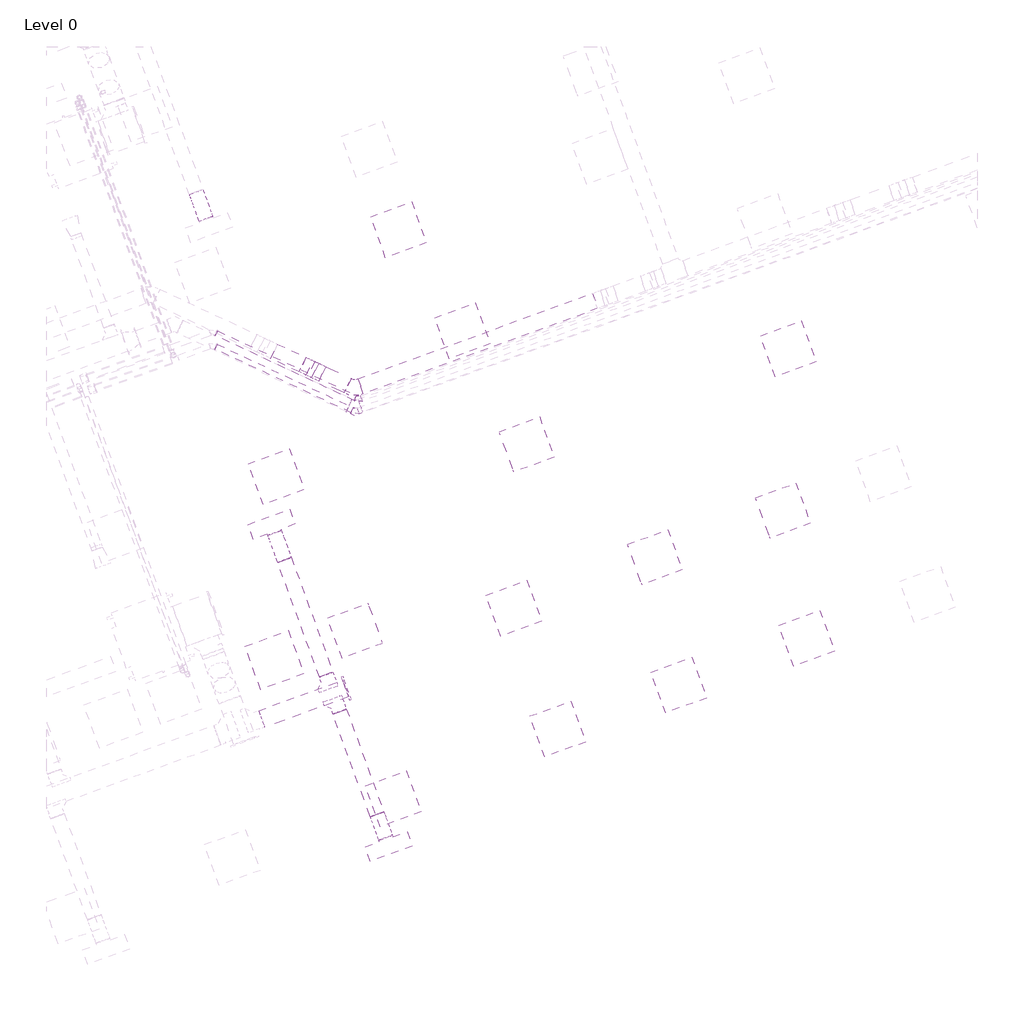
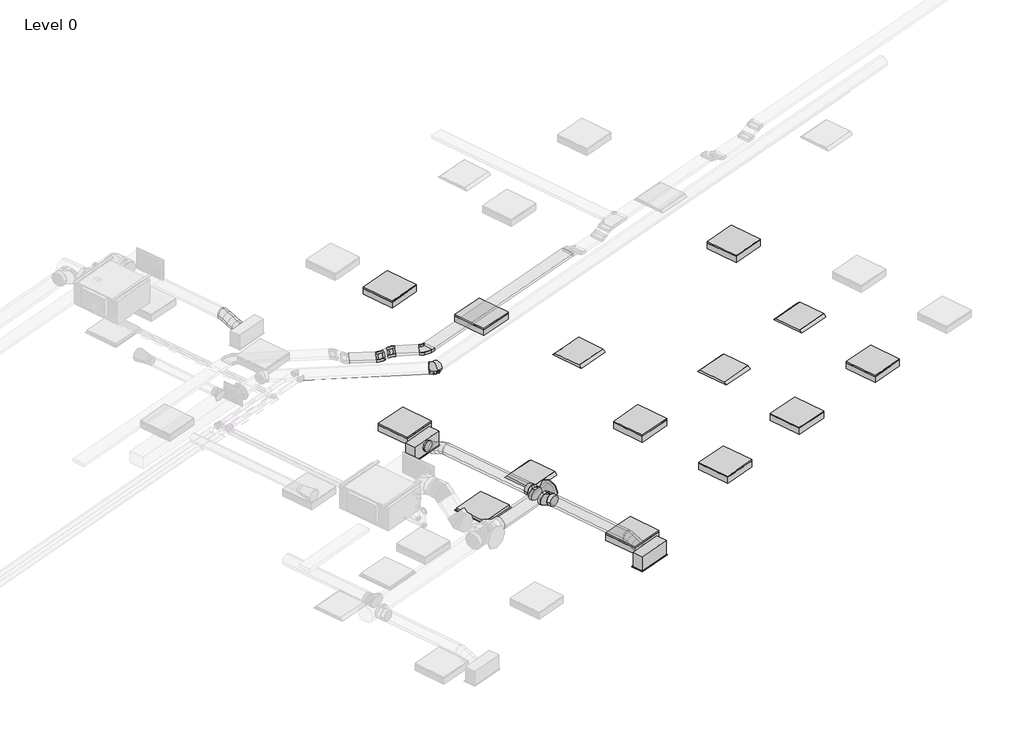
# One storey, part 27 of 34: 13 light fixtures, 6 duct segments, 4 cable carrier segments, 4 duct fittings, 3 air terminals, 3 cable carrier fittings, 2 pipe fittings, 2 pipe segments.
"""IFC4 building model written with IfcOpenShell, lengths in millimetres."""

from ifc_helpers import new_model, si_unit, point, frame, frame_2d, origin, place, context, project, spatial, polyline, circle_curve, ellipse_curve, trimmed, segment, composite_curve, outline, extrude, transform, mapped, element, save
from ifc_brep_helpers import plane_surface, cylinder_surface, advanced_brep
from components import return_grille_rectangular_hosted_standard_7b12617c, supply_diffuser_with_plenum_linear_slot_hosted_8e4f2f20, cable_tray_horizontal_bend_standard_ea848225, cable_tray_vertical_inside_bend_standard_9a66f55b, cable_tray_vertical_outside_bend_standard_4df2047e, dw144_round_blank_end_standard_9aa061e7, dw144_round_segmented_bend_slip_joint_standard_55afcd91, dw144_round_shoe_branch_slip_joint1_standard_2_559552f4, light_fixture_b730b5ca, troffer_light_2x2_parabolic_2_x2_2_lamp_120v_6a063ff3, elbow_threaded_gmi_standard_9261818c

model = new_model("IFC4")

# Units and contexts
model_context = context("Model", 3, world=origin())
ifc_project = project(units=[si_unit("LENGTHUNIT", "METRE", prefix="MILLI")], contexts=[model_context])

# Site, building, storey
site = spatial("IfcSite", under=ifc_project)
building = spatial("IfcBuilding", under=site)
storey = spatial("IfcBuildingStorey", under=building, Name="Level 0", Elevation=0.0)

# Air terminals
placement = place(None, origin())
return_grille_rectangular_hosted_standard_shape = return_grille_rectangular_hosted_standard_7b12617c(model_context)
element("IfcAirTerminal", 1, ObjectType="Return Grille - Rectangular - Hosted : Standard", at=placement, inside=storey, context=model_context, shape_type="MappedRepresentation", body=[
    mapped(return_grille_rectangular_hosted_standard_shape, transform((48062.9940494, 9235.5167351, 2800.0), x_axis=(0.939692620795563, 0.34202014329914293, 0.0), y_axis=(0.34202014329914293, -0.939692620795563, 0.0), z_axis=(0.0, 0.0, -1.0))),
])
supply_diffuser_with_plenum_linear_slot_hosted_shape = supply_diffuser_with_plenum_linear_slot_hosted_8e4f2f20(model_context)
element("IfcAirTerminal", 2, ObjectType="Supply Diffuser with Plenum - Linear Slot - Hosted : 24\" x 8\"-200 In Inlet  4-Slot", at=placement, inside=storey, context=model_context, shape_type="MappedRepresentation", body=[
    mapped(supply_diffuser_with_plenum_linear_slot_hosted_shape, transform((49663.8644548, 6625.652594, 2800.0), x_axis=(-0.9396926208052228, -0.34202014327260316, 0.0), y_axis=(-0.34202014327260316, 0.9396926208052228, 0.0), z_axis=(0.0, 0.0, -1.0))),
])
element("IfcAirTerminal", 3, ObjectType="Supply Diffuser with Plenum - Linear Slot - Hosted : 24\" x 8\"-200 In Inlet  4-Slot", at=placement, inside=storey, context=model_context, shape_type="MappedRepresentation", body=[
    mapped(supply_diffuser_with_plenum_linear_slot_hosted_shape, transform((48022.1677671, 11136.1771739, 2800.0), x_axis=(0.939692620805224, 0.34202014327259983, 0.0), y_axis=(0.34202014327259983, -0.939692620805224, 0.0), z_axis=(0.0, 0.0, -1.0))),
])

# Cable carrier fittings
cable_tray_horizontal_bend_standard_shape = cable_tray_horizontal_bend_standard_ea848225(model_context)
element("IfcCableCarrierFitting", 4, ObjectType="Cable Tray Horizontal Bend : Standard", at=placement, inside=storey, context=model_context, shape_type="MappedRepresentation", body=[
    mapped(cable_tray_horizontal_bend_standard_shape, transform((49178.5883036, 13033.9843438, 3248.9627355), x_axis=(0.9063077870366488, -0.422618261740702, 0.0), y_axis=(0.422618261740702, 0.9063077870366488, 0.0), z_axis=(0.0, 0.0, 1.0))),
])
cable_tray_vertical_inside_bend_standard_shape = cable_tray_vertical_inside_bend_standard_9a66f55b(model_context)
element("IfcCableCarrierFitting", 5, ObjectType="Cable Tray Vertical Inside Bend : Standard", at=placement, inside=storey, context=model_context, shape_type="MappedRepresentation", body=[
    mapped(cable_tray_vertical_inside_bend_standard_shape, transform((48516.9257607, 13342.5226547, 3148.9627355), x_axis=(0.9063077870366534, -0.42261826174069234, 0.0), y_axis=(0.0, 0.0, 1.0000000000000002), z_axis=(-0.42261826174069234, -0.9063077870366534, 0.0))),
])
cable_tray_vertical_outside_bend_standard_shape = cable_tray_vertical_outside_bend_standard_4df2047e(model_context)
element("IfcCableCarrierFitting", 6, ObjectType="Cable Tray Vertical Outside Bend : Standard", at=placement, inside=storey, context=model_context, shape_type="MappedRepresentation", body=[
    mapped(cable_tray_vertical_outside_bend_standard_shape, transform((48673.9028741, 13269.3230245, 3248.9627355), x_axis=(-0.9063077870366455, 0.42261826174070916, 0.0), y_axis=(0.0, 0.0, -1.0), z_axis=(-0.42261826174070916, -0.9063077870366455, 0.0))),
])

# Cable carrier segments
element("IfcCableCarrierSegment", 7, ObjectType="Perforated Cable Tray", at=placement, inside=storey, context=model_context, shape_type="SweptSolid", body=[
    extrude(outline(polyline([(48687.0694296, 13139.053343), (48782.1585385, 13342.9725951), (49136.974176, 13177.519346), (49041.8850671, 12973.600094), (48687.0694296, 13139.053343)])), frame((0.0, 0.0, 3223.9627355), z_axis=(0.0, 0.0, 1.0), x_axis=(1.0, 0.0, 0.0)), (0.0, 0.0, 1.0), 50.0),
])
element("IfcCableCarrierSegment", 8, ObjectType="Perforated Cable Tray", at=placement, inside=storey, context=model_context, shape_type="SweptSolid", body=[
    extrude(outline(polyline([(48010.1156409, 13454.7220789), (48105.2047498, 13658.6413309), (48503.7592052, 13472.7923362), (48408.6700963, 13268.8730841), (48010.1156409, 13454.7220789)])), frame((0.0, 0.0, 3123.9627355), z_axis=(0.0, 0.0, 1.0), x_axis=(1.0, 0.0, 0.0)), (0.0, 0.0, 1.0), 50.0),
])
element("IfcCableCarrierSegment", 9, ObjectType="Perforated Cable Tray", at=placement, inside=storey, context=model_context, shape_type="SweptSolid", body=[
    extrude(outline(polyline([(0.0, -225.0), (0.0, 0.0), (66.0254038, 0.0), (66.0254038, -225.0), (0.0, -225.0)])), frame((48585.1098035, 13186.5978974, 3193.8184513), z_axis=(-0.4531538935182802, 0.21130913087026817, 0.8660254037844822), x_axis=(-0.7848855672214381, 0.3659981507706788, -0.49999999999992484)), (0.0, 0.0, 1.0), 50.0),
])
element("IfcCableCarrierSegment", 10, ObjectType="Perforated Cable Tray", at=placement, inside=storey, context=model_context, shape_type="SweptSolid", body=[
    extrude(outline(polyline([(49309.5085089, 12961.9154021), (49232.5539766, 13173.3462418), (52512.3328011, 14367.0881089), (52589.2873334, 14155.6572692), (49309.5085089, 12961.9154021)])), frame((0.0, 0.0, 3223.9627355), z_axis=(0.0, 0.0, 1.0), x_axis=(1.0, 0.0, 0.0)), (0.0, 0.0, 1.0), 50.0),
])

# Duct fittings
dw144_round_blank_end_standard_shape = dw144_round_blank_end_standard_9aa061e7(model_context)
element("IfcDuctFitting", 11, ObjectType="DW144 Round Blank End : Standard", at=placement, inside=storey, context=model_context, shape_type="MappedRepresentation", body=[
    mapped(dw144_round_blank_end_standard_shape, transform((49058.6014923, 8836.976268, 3072.2088531), x_axis=(0.9396926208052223, 0.3420201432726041, 0.0), y_axis=(-0.3420201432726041, 0.9396926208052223, 0.0), z_axis=(0.0, 0.0, 1.0))),
])
dw144_round_segmented_bend_slip_joint_standard_shape = dw144_round_segmented_bend_slip_joint_standard_55afcd91(model_context)
element("IfcDuctFitting", 12, ObjectType="DW144 Round Segmented Bend - Slip Joint : Standard", at=placement, inside=storey, context=model_context, shape_type="MappedRepresentation", body=[
    mapped(dw144_round_segmented_bend_slip_joint_standard_shape, transform((49186.9042916, 12762.9479037, 3050.0), x_axis=(0.9063077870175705, -0.42261826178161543, 0.0), y_axis=(0.42261826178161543, 0.9063077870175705, 0.0), z_axis=(0.0, 0.0, 1.0))),
])
dw144_round_shoe_branch_slip_joint1_standard_2_shape = dw144_round_shoe_branch_slip_joint1_standard_2_559552f4(model_context)
element("IfcDuctFitting", 13, ObjectType="DW144 Round Shoe Branch - Slip Joint1 : Standard 2", at=placement, inside=storey, context=model_context, shape_type="MappedRepresentation", body=[
    mapped(dw144_round_shoe_branch_slip_joint1_standard_2_shape, transform((48925.1089268, 8655.3667261, 3072.2088531), x_axis=(0.34202014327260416, -0.9396926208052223, 0.0), y_axis=(-0.9396926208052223, -0.34202014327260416, 0.0), z_axis=(0.0, 0.0, -1.0))),
])
element("IfcDuctFitting", 14, ObjectType="DW144 Round Shoe Branch - Slip Joint1 : Standard 2", at=placement, inside=storey, context=model_context, shape_type="MappedRepresentation", body=[
    mapped(dw144_round_shoe_branch_slip_joint1_standard_2_shape, transform((48839.603891, 8890.2898813, 3072.2088531), x_axis=(-0.34202014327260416, 0.9396926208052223, 0.0), y_axis=(-0.9396926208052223, -0.34202014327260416, 0.0), z_axis=(0.0, 0.0, 1.0))),
])

# Duct segments
element("IfcDuctSegment", 15, ObjectType="DW144 Segmented Bend / Shoe Branch", at=placement, inside=storey, context=model_context, shape_type="SweptSolid", body=[
    extrude(outline(composite_curve([segment(trimmed(circle_curve(frame_2d((0.0, 125.0)), 125.0), [point((125.0, 125.0))], [point((0.0, 0.0))], False, "CARTESIAN"), True, "CONTINUOUS"), segment(trimmed(circle_curve(frame_2d((0.0, 125.0)), 125.0), [point((0.0, 0.0))], [point((-125.0, 125.0))], False, "CARTESIAN"), True, "CONTINUOUS"), segment(trimmed(circle_curve(frame_2d((0.0, 125.0)), 125.0), [point((-125.0, 125.0))], [point((0.0, 250.0))], False, "CARTESIAN"), True, "CONTINUOUS"), segment(trimmed(circle_curve(frame_2d((0.0, 125.0)), 125.0), [point((0.0, 250.0))], [point((125.0, 125.0))], False, "CARTESIAN"), True, "CONTINUOUS")], self_intersect=False)), frame((47888.1158529, 8410.9543357, 3197.2088531), z_axis=(0.9396926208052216, 0.34202014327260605, 0.0), x_axis=(0.34202014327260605, -0.9396926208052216, 0.0)), (0.0, 0.0, 1.0), 1245.6048004),
])
element("IfcDuctSegment", 16, ObjectType="DW144 Segmented Bend / Shoe Branch", at=placement, inside=storey, context=model_context, shape_type="SweptSolid", body=[
    extrude(outline(composite_curve([segment(trimmed(circle_curve(frame_2d((0.0, -100.0)), 100.0), [point((-100.0, -100.0))], [point((0.0, 0.0))], False, "CARTESIAN"), True, "CONTINUOUS"), segment(trimmed(circle_curve(frame_2d((0.0, -100.0)), 100.0), [point((0.0, 0.0))], [point((99.9999999, -100.0))], False, "CARTESIAN"), True, "CONTINUOUS"), segment(trimmed(circle_curve(frame_2d((0.0, -100.0)), 100.0), [point((99.9999999, -100.0))], [point((0.0, -200.0))], False, "CARTESIAN"), True, "CONTINUOUS"), segment(trimmed(circle_curve(frame_2d((0.0, -100.0)), 100.0), [point((0.0, -200.0))], [point((-100.0, -100.0))], False, "CARTESIAN"), True, "CONTINUOUS")], self_intersect=False)), frame((49500.2755983, 7075.1092836, 2972.2088531), z_axis=(-0.3420201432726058, 0.9396926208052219, 0.0), x_axis=(0.9396926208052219, 0.3420201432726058, 0.0)), (0.0, 0.0, 1.0), 1531.674845),
])
element("IfcDuctSegment", 17, ObjectType="DW144 Segmented Bend / Shoe Branch", at=placement, inside=storey, context=model_context, shape_type="SweptSolid", body=[
    extrude(outline(composite_curve([segment(trimmed(circle_curve(frame_2d((0.0, 100.0)), 100.0), [point((100.0, 100.0))], [point((0.0, 0.0))], False, "CARTESIAN"), True, "CONTINUOUS"), segment(trimmed(circle_curve(frame_2d((0.0, 100.0)), 100.0), [point((0.0, 0.0))], [point((-100.0, 100.0))], False, "CARTESIAN"), True, "CONTINUOUS"), segment(trimmed(circle_curve(frame_2d((0.0, 100.0)), 100.0), [point((-100.0, 100.0))], [point((0.0, 200.0))], False, "CARTESIAN"), True, "CONTINUOUS"), segment(trimmed(circle_curve(frame_2d((0.0, 100.0)), 100.0), [point((0.0, 200.0))], [point((100.0, 100.0))], False, "CARTESIAN"), True, "CONTINUOUS")], self_intersect=False)), frame((48788.3008695, 9031.2437744, 3172.2088531), z_axis=(-0.34202014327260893, 0.9396926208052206, 0.0), x_axis=(0.9396926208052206, 0.34202014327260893, 0.0)), (0.0, 0.0, 1.0), 1708.325155),
])
element("IfcDuctSegment", 18, ObjectType="Flex - Round", at=placement, inside=storey, context=model_context, shape_type="AdvancedBrep", body=[
    advanced_brep(
    [(47061.6165117, 15821.9331388, 3072.2088531), (46967.6472496, 15787.7311245, 2972.2088531), (46873.6779876, 15753.5291101, 3072.2088531), (46967.6472496, 15787.7311245, 3172.2088531), (47067.6745305, 15805.2888691, 3072.2088531), (46970.0260707, 15781.1953673, 2972.2088531), (46879.7360063, 15736.8848404, 3072.2088531), (46977.3844661, 15760.9783422, 3172.2088531), (47199.3816034, 15443.4266602, 2954.4), (47105.4123413, 15409.2246459, 3054.4), (47011.4430792, 15375.0226316, 2954.4), (47105.4123413, 15409.2246459, 2854.4), (47096.5988606, 15725.8199253, 3053.8012198), (46992.4480266, 15719.5915499, 2957.9393734), (46908.6603364, 15657.4158966, 3053.8012198), (47012.8111704, 15663.644272, 3149.6630662), (47130.4990576, 15632.6798995, 3013.3044266), (47023.5938265, 15634.0191678, 2920.7329518), (46942.5605334, 15564.2758709, 3013.3044266), (47049.4657644, 15562.9366026, 3105.8759013), (47164.3992546, 15539.5398738, 2972.8076333), (47060.2484206, 15533.3114984, 2876.9457869), (46976.4607304, 15471.1358451, 2972.8076333), (47080.6115644, 15477.3642205, 3068.6694797), (47193.3235846, 15460.07093, 2954.4), (47095.6751249, 15435.9774282, 2854.4), (47005.3850605, 15391.6669013, 2954.4), (47103.0335202, 15415.7604031, 3054.4)],
    [
        (0, 1, circle_curve(frame((46967.6472496, 15787.7311245, 3072.2088531), z_axis=(-0.3420201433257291, 0.9396926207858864, 0.0), x_axis=(0.9396926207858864, 0.3420201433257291, 0.0)), 100.0)),
        (1, 2, circle_curve(frame((46967.6472496, 15787.7311245, 3072.2088531), z_axis=(-0.3420201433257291, 0.9396926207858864, 0.0), x_axis=(0.9396926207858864, 0.3420201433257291, 0.0)), 100.0)),
        (2, 3, circle_curve(frame((46967.6472496, 15787.7311245, 3072.2088531), z_axis=(-0.3420201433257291, 0.9396926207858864, 0.0), x_axis=(0.9396926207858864, 0.3420201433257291, 0.0)), 100.0)),
        (3, 0, circle_curve(frame((46967.6472496, 15787.7311245, 3072.2088531), z_axis=(-0.3420201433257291, 0.9396926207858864, 0.0), x_axis=(0.9396926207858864, 0.3420201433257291, 0.0)), 100.0)),
        (0, 4),
        (4, 5, ellipse_curve(frame((46973.7052684, 15771.0868547, 3072.2088531), z_axis=(-0.34005825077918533, 0.9343023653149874, 0.1069554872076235), x_axis=(-0.03658093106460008, 0.10050528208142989, -0.9942638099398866)), 100.5769284, 100.0)),
        (5, 1),
        (5, 6, ellipse_curve(frame((46973.7052684, 15771.0868547, 3072.2088531), z_axis=(-0.34005825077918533, 0.9343023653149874, 0.1069554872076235), x_axis=(-0.03658093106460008, 0.10050528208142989, -0.9942638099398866)), 100.5769284, 100.0)),
        (6, 2),
        (6, 7, ellipse_curve(frame((46973.7052684, 15771.0868547, 3072.2088531), z_axis=(-0.34005825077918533, 0.9343023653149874, 0.1069554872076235), x_axis=(-0.03658093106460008, 0.10050528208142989, -0.9942638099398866)), 100.5769284, 100.0)),
        (7, 3),
        (7, 4, ellipse_curve(frame((46973.7052684, 15771.0868547, 3072.2088531), z_axis=(-0.34005825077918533, 0.9343023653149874, 0.1069554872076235), x_axis=(-0.03658093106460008, 0.10050528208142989, -0.9942638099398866)), 100.5769284, 100.0)),
        (8, 9, circle_curve(frame((47105.4123413, 15409.2246459, 2954.4), z_axis=(0.34202014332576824, -0.9396926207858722, 0.0), x_axis=(0.9396926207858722, 0.34202014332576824, 0.0)), 100.0)),
        (9, 10, circle_curve(frame((47105.4123413, 15409.2246459, 2954.4), z_axis=(0.34202014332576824, -0.9396926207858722, 0.0), x_axis=(0.9396926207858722, 0.34202014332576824, 0.0)), 100.0)),
        (10, 11, circle_curve(frame((47105.4123413, 15409.2246459, 2954.4), z_axis=(0.34202014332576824, -0.9396926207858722, 0.0), x_axis=(0.9396926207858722, 0.34202014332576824, 0.0)), 100.0)),
        (11, 8, circle_curve(frame((47105.4123413, 15409.2246459, 2954.4), z_axis=(0.34202014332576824, -0.9396926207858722, 0.0), x_axis=(0.9396926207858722, 0.34202014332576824, 0.0)), 100.0)),
        (4, 12),
        (12, 13, ellipse_curve(frame((47002.6295985, 15691.617911, 3053.8012198), z_axis=(-0.3266331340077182, 0.8974171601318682, 0.29656910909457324), x_axis=(-0.10143260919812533, 0.27868380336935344, -0.955011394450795)), 100.3776991, 100.0)),
        (13, 5),
        (13, 14, ellipse_curve(frame((47002.6295985, 15691.617911, 3053.8012198), z_axis=(-0.3266331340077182, 0.8974171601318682, 0.29656910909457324), x_axis=(-0.10143260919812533, 0.27868380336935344, -0.955011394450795)), 100.3776991, 100.0)),
        (14, 6),
        (14, 15, ellipse_curve(frame((47002.6295985, 15691.617911, 3053.8012198), z_axis=(-0.3266331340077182, 0.8974171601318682, 0.29656910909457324), x_axis=(-0.10143260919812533, 0.27868380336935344, -0.955011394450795)), 100.3776991, 100.0)),
        (15, 7),
        (15, 12, ellipse_curve(frame((47002.6295985, 15691.617911, 3053.8012198), z_axis=(-0.3266331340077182, 0.8974171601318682, 0.29656910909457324), x_axis=(-0.10143260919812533, 0.27868380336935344, -0.955011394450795)), 100.3776991, 100.0)),
        (12, 16),
        (16, 17, circle_curve(frame((47036.5297955, 15598.4778852, 3013.3044266), z_axis=(-0.31661309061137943, 0.8698873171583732, 0.3782224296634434), x_axis=(0.9396926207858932, 0.34202014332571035, 0.0)), 100.0)),
        (17, 13),
        (17, 18, circle_curve(frame((47036.5297955, 15598.4778852, 3013.3044266), z_axis=(-0.31661309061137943, 0.8698873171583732, 0.3782224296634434), x_axis=(0.9396926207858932, 0.34202014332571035, 0.0)), 100.0)),
        (18, 14),
        (18, 19, circle_curve(frame((47036.5297955, 15598.4778852, 3013.3044266), z_axis=(-0.31661309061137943, 0.8698873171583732, 0.3782224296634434), x_axis=(0.9396926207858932, 0.34202014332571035, 0.0)), 100.0)),
        (19, 15),
        (19, 16, circle_curve(frame((47036.5297955, 15598.4778852, 3013.3044266), z_axis=(-0.31661309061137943, 0.8698873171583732, 0.3782224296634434), x_axis=(0.9396926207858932, 0.34202014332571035, 0.0)), 100.0)),
        (16, 20),
        (20, 21, ellipse_curve(frame((47070.4299925, 15505.3378594, 2972.8076333), z_axis=(-0.32663313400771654, 0.8974171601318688, 0.2965691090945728), x_axis=(0.10143260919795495, -0.27868380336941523, 0.9550113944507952)), 100.3776991, 100.0)),
        (21, 17),
        (21, 22, ellipse_curve(frame((47070.4299925, 15505.3378594, 2972.8076333), z_axis=(-0.32663313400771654, 0.8974171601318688, 0.2965691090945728), x_axis=(0.10143260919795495, -0.27868380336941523, 0.9550113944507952)), 100.3776991, 100.0)),
        (22, 18),
        (22, 23, ellipse_curve(frame((47070.4299925, 15505.3378594, 2972.8076333), z_axis=(-0.32663313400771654, 0.8974171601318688, 0.2965691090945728), x_axis=(0.10143260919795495, -0.27868380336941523, 0.9550113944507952)), 100.3776991, 100.0)),
        (23, 19),
        (23, 20, ellipse_curve(frame((47070.4299925, 15505.3378594, 2972.8076333), z_axis=(-0.32663313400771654, 0.8974171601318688, 0.2965691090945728), x_axis=(0.10143260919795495, -0.27868380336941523, 0.9550113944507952)), 100.3776991, 100.0)),
        (20, 24),
        (24, 25, ellipse_curve(frame((47099.3543226, 15425.8689156, 2954.4), z_axis=(-0.340058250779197, 0.9343023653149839, 0.10695548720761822), x_axis=(0.03658093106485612, -0.10050528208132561, 0.9942638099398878)), 100.5769284, 100.0)),
        (25, 21),
        (25, 26, ellipse_curve(frame((47099.3543226, 15425.8689156, 2954.4), z_axis=(-0.340058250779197, 0.9343023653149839, 0.10695548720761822), x_axis=(0.03658093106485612, -0.10050528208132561, 0.9942638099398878)), 100.5769284, 100.0)),
        (26, 22),
        (26, 27, ellipse_curve(frame((47099.3543226, 15425.8689156, 2954.4), z_axis=(-0.340058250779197, 0.9343023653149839, 0.10695548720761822), x_axis=(0.03658093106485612, -0.10050528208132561, 0.9942638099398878)), 100.5769284, 100.0)),
        (27, 23),
        (27, 24, ellipse_curve(frame((47099.3543226, 15425.8689156, 2954.4), z_axis=(-0.340058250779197, 0.9343023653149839, 0.10695548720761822), x_axis=(0.03658093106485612, -0.10050528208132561, 0.9942638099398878)), 100.5769284, 100.0)),
        (24, 8),
        (11, 25),
        (10, 26),
        (9, 27),
    ],
    [
        plane_surface(frame((46967.6472496, 15787.7311245, 2972.2088531), z_axis=(-0.3420201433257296, 0.9396926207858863, 0.0), x_axis=(0.9396926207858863, 0.3420201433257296, 0.0))),
        cylinder_surface(frame((46967.6472496, 15787.7311245, 3072.2088531), z_axis=(-0.3420201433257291, 0.9396926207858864, 0.0), x_axis=(0.9396926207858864, 0.3420201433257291, 0.0)), 100.0),
        plane_surface(frame((47105.4123413, 15409.2246459, 2854.4), z_axis=(0.3420201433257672, -0.9396926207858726, 0.0), x_axis=(0.9396926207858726, 0.3420201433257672, 0.0))),
        cylinder_surface(frame((46973.7052684, 15771.0868547, 3072.2088531), z_axis=(-0.3341950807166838, 0.9181934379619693, 0.21268394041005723), x_axis=(0.9396926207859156, 0.342020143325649, 0.0)), 100.0),
        cylinder_surface(frame((47002.6295985, 15691.617911, 3053.8012198), z_axis=(-0.31661309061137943, 0.8698873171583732, 0.3782224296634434), x_axis=(0.9396926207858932, 0.34202014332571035, 0.0)), 100.0),
        cylinder_surface(frame((47036.5297955, 15598.4778852, 3013.3044266), z_axis=(-0.31661309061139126, 0.8698873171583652, 0.3782224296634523), x_axis=(0.939692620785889, 0.3420201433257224, 0.0)), 100.0),
        cylinder_surface(frame((47070.4299925, 15505.3378594, 2972.8076333), z_axis=(-0.33419508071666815, 0.9181934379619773, 0.21268394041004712), x_axis=(0.9396926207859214, 0.3420201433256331, 0.0)), 100.0),
        cylinder_surface(frame((47099.3543226, 15425.8689156, 2954.4), z_axis=(-0.34202014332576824, 0.9396926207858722, 0.0), x_axis=(0.9396926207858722, 0.34202014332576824, 0.0)), 100.0),
    ],
    [
        (0, [[1, 2, 3, 4]]),
        (1, [[-1, 5, 6, 7]]),
        (1, [[-2, -7, 8, 9]]),
        (1, [[-3, -9, 10, 11]]),
        (1, [[-4, -11, 12, -5]]),
        (2, [[13, 14, 15, 16]]),
        (3, [[-6, 17, 18, 19]]),
        (3, [[-8, -19, 20, 21]]),
        (3, [[-10, -21, 22, 23]]),
        (3, [[-12, -23, 24, -17]]),
        (4, [[-18, 25, 26, 27]]),
        (4, [[-20, -27, 28, 29]]),
        (4, [[-22, -29, 30, 31]]),
        (4, [[-24, -31, 32, -25]]),
        (5, [[-26, 33, 34, 35]]),
        (5, [[-28, -35, 36, 37]]),
        (5, [[-30, -37, 38, 39]]),
        (5, [[-32, -39, 40, -33]]),
        (6, [[-34, 41, 42, 43]]),
        (6, [[-36, -43, 44, 45]]),
        (6, [[-38, -45, 46, 47]]),
        (6, [[-40, -47, 48, -41]]),
        (7, [[-42, 49, -16, 50]]),
        (7, [[-44, -50, -15, 51]]),
        (7, [[-46, -51, -14, 52]]),
        (7, [[-48, -52, -13, -49]]),
    ],
),
])
element("IfcDuctSegment", 19, ObjectType="Flex - Round", at=placement, inside=storey, context=model_context, shape_type="AdvancedBrep", body=[
    advanced_brep(
    [(49594.2448603, 7109.3112979, 3072.2088531), (49500.2755983, 7075.1092836, 2972.2088531), (49406.3063362, 7040.9072693, 3072.2088531), (49500.2755983, 7075.1092836, 3172.2088531), (49601.1600626, 7090.3119359, 3072.2088531), (49502.7035033, 7068.4386693, 2972.2088531), (49413.2215384, 7021.9079072, 3072.2088531), (49511.6780977, 7043.7811738, 3172.2088531), (49713.7473205, 6780.9809871, 2954.4), (49619.7780584, 6746.7789728, 3054.4), (49525.8087963, 6712.5769585, 2954.4), (49619.7780584, 6746.7789728, 2854.4), (49624.7401671, 7025.5261313, 3053.8012198), (49518.9451378, 7023.8151453, 2959.5299419), (49436.8016429, 6957.1221026, 3053.8012198), (49542.5966722, 6958.8330886, 3148.0724978), (49653.9960904, 6945.1461425, 3013.3044266), (49545.3917563, 6951.1536582, 2922.9218599), (49466.0575662, 6876.7421139, 3013.3044266), (49574.6619004, 6870.7345982, 3103.6869932), (49683.2520137, 6864.7661538, 2972.8076333), (49577.4569845, 6863.0551678, 2878.5363553), (49495.3134896, 6796.3621251, 2972.8076333), (49601.1085188, 6798.0731111, 3067.0789113), (49706.8321182, 6799.9803492, 2954.4), (49608.3755589, 6778.1070826, 2854.4), (49518.893594, 6731.5763205, 2954.4), (49617.3501533, 6753.4495871, 3054.4)],
    [
        (0, 1, circle_curve(frame((49500.2755983, 7075.1092836, 3072.2088531), z_axis=(-0.3420201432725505, 0.9396926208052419, 0.0), x_axis=(0.9396926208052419, 0.3420201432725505, 0.0)), 100.0)),
        (1, 2, circle_curve(frame((49500.2755983, 7075.1092836, 3072.2088531), z_axis=(-0.3420201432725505, 0.9396926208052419, 0.0), x_axis=(0.9396926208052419, 0.3420201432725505, 0.0)), 100.0)),
        (2, 3, circle_curve(frame((49500.2755983, 7075.1092836, 3072.2088531), z_axis=(-0.3420201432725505, 0.9396926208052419, 0.0), x_axis=(0.9396926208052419, 0.3420201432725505, 0.0)), 100.0)),
        (3, 0, circle_curve(frame((49500.2755983, 7075.1092836, 3072.2088531), z_axis=(-0.3420201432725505, 0.9396926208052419, 0.0), x_axis=(0.9396926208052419, 0.3420201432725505, 0.0)), 100.0)),
        (0, 4),
        (4, 5, ellipse_curve(frame((49507.1908005, 7056.1099216, 3072.2088531), z_axis=(-0.339113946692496, 0.9317079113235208, 0.13008496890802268), x_axis=(-0.04449167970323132, 0.12223988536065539, -0.9915028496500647)), 100.8569971, 100.0)),
        (5, 1),
        (5, 6, ellipse_curve(frame((49507.1908005, 7056.1099216, 3072.2088531), z_axis=(-0.339113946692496, 0.9317079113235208, 0.13008496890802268), x_axis=(-0.04449167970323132, 0.12223988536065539, -0.9915028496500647)), 100.8569971, 100.0)),
        (6, 2),
        (6, 7, ellipse_curve(frame((49507.1908005, 7056.1099216, 3072.2088531), z_axis=(-0.339113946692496, 0.9317079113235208, 0.13008496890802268), x_axis=(-0.04449167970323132, 0.12223988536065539, -0.9915028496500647)), 100.8569971, 100.0)),
        (7, 3),
        (7, 4, ellipse_curve(frame((49507.1908005, 7056.1099216, 3072.2088531), z_axis=(-0.339113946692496, 0.9317079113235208, 0.13008496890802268), x_axis=(-0.04449167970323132, 0.12223988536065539, -0.9915028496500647)), 100.8569971, 100.0)),
        (8, 9, circle_curve(frame((49619.7780584, 6746.7789728, 2954.4), z_axis=(0.3420201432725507, -0.9396926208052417, 0.0), x_axis=(0.9396926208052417, 0.3420201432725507, 0.0)), 100.0)),
        (9, 10, circle_curve(frame((49619.7780584, 6746.7789728, 2954.4), z_axis=(0.3420201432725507, -0.9396926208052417, 0.0), x_axis=(0.9396926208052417, 0.3420201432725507, 0.0)), 100.0)),
        (10, 11, circle_curve(frame((49619.7780584, 6746.7789728, 2954.4), z_axis=(0.3420201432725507, -0.9396926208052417, 0.0), x_axis=(0.9396926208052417, 0.3420201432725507, 0.0)), 100.0)),
        (11, 8, circle_curve(frame((49619.7780584, 6746.7789728, 2954.4), z_axis=(0.3420201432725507, -0.9396926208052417, 0.0), x_axis=(0.9396926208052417, 0.3420201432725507, 0.0)), 100.0)),
        (4, 12),
        (12, 13, ellipse_curve(frame((49530.770905, 6991.324117, 3053.8012198), z_axis=(-0.3211034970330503, 0.8822246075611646, 0.3443432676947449), x_axis=(-0.11777233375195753, 0.32357682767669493, -0.938843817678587)), 100.4120986, 100.0)),
        (13, 5),
        (13, 14, ellipse_curve(frame((49530.770905, 6991.324117, 3053.8012198), z_axis=(-0.3211034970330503, 0.8822246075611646, 0.3443432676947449), x_axis=(-0.11777233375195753, 0.32357682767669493, -0.938843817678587)), 100.4120986, 100.0)),
        (14, 6),
        (14, 15, ellipse_curve(frame((49530.770905, 6991.324117, 3053.8012198), z_axis=(-0.3211034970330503, 0.8822246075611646, 0.3443432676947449), x_axis=(-0.11777233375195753, 0.32357682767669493, -0.938843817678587)), 100.4120986, 100.0)),
        (15, 7),
        (15, 12, ellipse_curve(frame((49530.770905, 6991.324117, 3053.8012198), z_axis=(-0.3211034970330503, 0.8822246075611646, 0.3443432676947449), x_axis=(-0.11777233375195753, 0.32357682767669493, -0.938843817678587)), 100.4120986, 100.0)),
        (12, 16),
        (16, 17, circle_curve(frame((49560.0268283, 6910.9441282, 3013.3044266), z_axis=(-0.3091265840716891, 0.8493183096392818, 0.4279008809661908), x_axis=(0.9396926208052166, 0.3420201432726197, 0.0)), 100.0)),
        (17, 13),
        (17, 18, circle_curve(frame((49560.0268283, 6910.9441282, 3013.3044266), z_axis=(-0.3091265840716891, 0.8493183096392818, 0.4279008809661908), x_axis=(0.9396926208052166, 0.3420201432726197, 0.0)), 100.0)),
        (18, 14),
        (18, 19, circle_curve(frame((49560.0268283, 6910.9441282, 3013.3044266), z_axis=(-0.3091265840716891, 0.8493183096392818, 0.4279008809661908), x_axis=(0.9396926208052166, 0.3420201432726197, 0.0)), 100.0)),
        (19, 15),
        (19, 16, circle_curve(frame((49560.0268283, 6910.9441282, 3013.3044266), z_axis=(-0.3091265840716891, 0.8493183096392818, 0.4279008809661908), x_axis=(0.9396926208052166, 0.3420201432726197, 0.0)), 100.0)),
        (16, 20),
        (20, 21, ellipse_curve(frame((49589.2827517, 6830.5641395, 2972.8076333), z_axis=(-0.32110349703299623, 0.8822246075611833, 0.34434326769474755), x_axis=(0.11777233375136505, -0.3235768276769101, 0.9388438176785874)), 100.4120986, 100.0)),
        (21, 17),
        (21, 22, ellipse_curve(frame((49589.2827517, 6830.5641395, 2972.8076333), z_axis=(-0.32110349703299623, 0.8822246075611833, 0.34434326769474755), x_axis=(0.11777233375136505, -0.3235768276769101, 0.9388438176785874)), 100.4120986, 100.0)),
        (22, 18),
        (22, 23, ellipse_curve(frame((49589.2827517, 6830.5641395, 2972.8076333), z_axis=(-0.32110349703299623, 0.8822246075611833, 0.34434326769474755), x_axis=(0.11777233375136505, -0.3235768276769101, 0.9388438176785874)), 100.4120986, 100.0)),
        (23, 19),
        (23, 20, ellipse_curve(frame((49589.2827517, 6830.5641395, 2972.8076333), z_axis=(-0.32110349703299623, 0.8822246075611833, 0.34434326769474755), x_axis=(0.11777233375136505, -0.3235768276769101, 0.9388438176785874)), 100.4120986, 100.0)),
        (20, 24),
        (24, 25, ellipse_curve(frame((49612.8628561, 6765.7783348, 2954.4), z_axis=(-0.3391139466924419, 0.9317079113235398, 0.13008496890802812), x_axis=(0.04449167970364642, -0.1222398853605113, 0.9915028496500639)), 100.8569971, 100.0)),
        (25, 21),
        (25, 26, ellipse_curve(frame((49612.8628561, 6765.7783348, 2954.4), z_axis=(-0.3391139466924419, 0.9317079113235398, 0.13008496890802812), x_axis=(0.04449167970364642, -0.1222398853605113, 0.9915028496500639)), 100.8569971, 100.0)),
        (26, 22),
        (26, 27, ellipse_curve(frame((49612.8628561, 6765.7783348, 2954.4), z_axis=(-0.3391139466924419, 0.9317079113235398, 0.13008496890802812), x_axis=(0.04449167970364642, -0.1222398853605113, 0.9915028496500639)), 100.8569971, 100.0)),
        (27, 23),
        (27, 24, ellipse_curve(frame((49612.8628561, 6765.7783348, 2954.4), z_axis=(-0.3391139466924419, 0.9317079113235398, 0.13008496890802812), x_axis=(0.04449167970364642, -0.1222398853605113, 0.9915028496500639)), 100.8569971, 100.0)),
        (24, 8),
        (11, 25),
        (10, 26),
        (9, 27),
    ],
    [
        plane_surface(frame((49500.2755983, 7075.1092836, 2972.2088531), z_axis=(-0.3420201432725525, 0.9396926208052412, 0.0), x_axis=(0.9396926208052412, 0.3420201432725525, 0.0))),
        cylinder_surface(frame((49500.2755983, 7075.1092836, 3072.2088531), z_axis=(-0.3420201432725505, 0.9396926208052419, 0.0), x_axis=(0.9396926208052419, 0.3420201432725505, 0.0)), 100.0),
        plane_surface(frame((49619.7780584, 6746.7789728, 2854.4), z_axis=(0.3420201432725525, -0.9396926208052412, 0.0), x_axis=(0.9396926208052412, 0.3420201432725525, 0.0))),
        cylinder_surface(frame((49507.1908005, 7056.1099216, 3072.2088531), z_axis=(-0.3304447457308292, 0.9078894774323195, 0.25795923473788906), x_axis=(0.9396926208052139, 0.3420201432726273, 0.0)), 100.0),
        cylinder_surface(frame((49530.770905, 6991.324117, 3053.8012198), z_axis=(-0.3091265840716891, 0.8493183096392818, 0.4279008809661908), x_axis=(0.9396926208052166, 0.3420201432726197, 0.0)), 100.0),
        cylinder_surface(frame((49560.0268283, 6910.9441282, 3013.3044266), z_axis=(-0.30912658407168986, 0.8493183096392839, 0.42790088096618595), x_axis=(0.9396926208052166, 0.34202014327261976, 0.0)), 100.0),
        cylinder_surface(frame((49589.2827517, 6830.5641395, 2972.8076333), z_axis=(-0.33044474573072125, 0.9078894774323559, 0.25795923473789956), x_axis=(0.9396926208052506, 0.3420201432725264, 0.0)), 100.0),
        cylinder_surface(frame((49612.8628561, 6765.7783348, 2954.4), z_axis=(-0.3420201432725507, 0.9396926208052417, 0.0), x_axis=(0.9396926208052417, 0.3420201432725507, 0.0)), 100.0),
    ],
    [
        (0, [[1, 2, 3, 4]]),
        (1, [[-1, 5, 6, 7]]),
        (1, [[-2, -7, 8, 9]]),
        (1, [[-3, -9, 10, 11]]),
        (1, [[-4, -11, 12, -5]]),
        (2, [[13, 14, 15, 16]]),
        (3, [[-6, 17, 18, 19]]),
        (3, [[-8, -19, 20, 21]]),
        (3, [[-10, -21, 22, 23]]),
        (3, [[-12, -23, 24, -17]]),
        (4, [[-18, 25, 26, 27]]),
        (4, [[-20, -27, 28, 29]]),
        (4, [[-22, -29, 30, 31]]),
        (4, [[-24, -31, 32, -25]]),
        (5, [[-26, 33, 34, 35]]),
        (5, [[-28, -35, 36, 37]]),
        (5, [[-30, -37, 38, 39]]),
        (5, [[-32, -39, 40, -33]]),
        (6, [[-34, 41, 42, 43]]),
        (6, [[-36, -43, 44, 45]]),
        (6, [[-38, -45, 46, 47]]),
        (6, [[-40, -47, 48, -41]]),
        (7, [[-42, 49, -16, 50]]),
        (7, [[-44, -50, -15, 51]]),
        (7, [[-46, -51, -14, 52]]),
        (7, [[-48, -52, -13, -49]]),
    ],
),
])
element("IfcDuctSegment", 20, ObjectType="Flex - Round", at=placement, inside=storey, context=model_context, shape_type="AdvancedBrep", body=[
    advanced_brep(
    [(48110.0499932, 10602.3423021, 3072.2088531), (48204.0192553, 10636.5443165, 2972.2088531), (48297.9885173, 10670.7463308, 3072.2088531), (48204.0192553, 10636.5443165, 3172.2088531), (48103.9919744, 10618.9865719, 3072.2088531), (48201.6404342, 10643.0800736, 2972.2088531), (48291.9304986, 10687.3906005, 3072.2088531), (48194.2820388, 10663.2970987, 3172.2088531), (47972.2849015, 10980.8487807, 2954.4), (48066.2541636, 11015.050795, 3054.4), (48160.2234257, 11049.2528094, 2954.4), (48066.2541636, 11015.050795, 2854.4), (48075.0676443, 10698.4555156, 3053.8012198), (48179.2184784, 10704.683891, 2957.9393734), (48263.0061685, 10766.8595443, 3053.8012198), (48158.8553345, 10760.6311689, 3149.6630662), (48041.1674474, 10791.5955414, 3013.3044266), (48148.0726784, 10790.2562731, 2920.7329518), (48229.1059715, 10859.9995701, 3013.3044266), (48122.2007405, 10861.3388384, 3105.8759013), (48007.2672504, 10884.7355672, 2972.8076333), (48111.4180844, 10890.9639426, 2876.9457869), (48195.2057745, 10953.1395958, 2972.8076333), (48091.0549405, 10946.9112205, 3068.6694797), (47978.3429203, 10964.204511, 2954.4), (48075.99138, 10988.2980127, 2854.4), (48166.2814444, 11032.6085396, 2954.4), (48068.6329847, 11008.5150379, 3054.4)],
    [
        (0, 1, circle_curve(frame((48204.0192553, 10636.5443165, 3072.2088531), z_axis=(0.3420201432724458, -0.93969262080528, 0.0), x_axis=(-0.93969262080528, -0.3420201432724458, 0.0)), 100.0)),
        (1, 2, circle_curve(frame((48204.0192553, 10636.5443165, 3072.2088531), z_axis=(0.3420201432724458, -0.93969262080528, 0.0), x_axis=(-0.93969262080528, -0.3420201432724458, 0.0)), 100.0)),
        (2, 3, circle_curve(frame((48204.0192553, 10636.5443165, 3072.2088531), z_axis=(0.3420201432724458, -0.93969262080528, 0.0), x_axis=(-0.93969262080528, -0.3420201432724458, 0.0)), 100.0)),
        (3, 0, circle_curve(frame((48204.0192553, 10636.5443165, 3072.2088531), z_axis=(0.3420201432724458, -0.93969262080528, 0.0), x_axis=(-0.93969262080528, -0.3420201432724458, 0.0)), 100.0)),
        (0, 4),
        (4, 5, ellipse_curve(frame((48197.9612365, 10653.1885862, 3072.2088531), z_axis=(0.34005825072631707, -0.9343023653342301, 0.10695548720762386), x_axis=(0.03658093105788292, -0.100505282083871, -0.994263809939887)), 100.5769284, 100.0)),
        (5, 1),
        (5, 6, ellipse_curve(frame((48197.9612365, 10653.1885862, 3072.2088531), z_axis=(0.34005825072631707, -0.9343023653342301, 0.10695548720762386), x_axis=(0.03658093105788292, -0.100505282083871, -0.994263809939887)), 100.5769284, 100.0)),
        (6, 2),
        (6, 7, ellipse_curve(frame((48197.9612365, 10653.1885862, 3072.2088531), z_axis=(0.34005825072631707, -0.9343023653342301, 0.10695548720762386), x_axis=(0.03658093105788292, -0.100505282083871, -0.994263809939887)), 100.5769284, 100.0)),
        (7, 3),
        (7, 4, ellipse_curve(frame((48197.9612365, 10653.1885862, 3072.2088531), z_axis=(0.34005825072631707, -0.9343023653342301, 0.10695548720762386), x_axis=(0.03658093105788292, -0.100505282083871, -0.994263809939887)), 100.5769284, 100.0)),
        (8, 9, circle_curve(frame((48066.2541636, 11015.050795, 2954.4), z_axis=(-0.34202014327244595, 0.93969262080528, 0.0), x_axis=(-0.9396926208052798, -0.3420201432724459, 0.0)), 100.0)),
        (9, 10, circle_curve(frame((48066.2541636, 11015.050795, 2954.4), z_axis=(-0.34202014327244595, 0.93969262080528, 0.0), x_axis=(-0.9396926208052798, -0.3420201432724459, 0.0)), 100.0)),
        (10, 11, circle_curve(frame((48066.2541636, 11015.050795, 2954.4), z_axis=(-0.34202014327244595, 0.93969262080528, 0.0), x_axis=(-0.9396926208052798, -0.3420201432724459, 0.0)), 100.0)),
        (11, 8, circle_curve(frame((48066.2541636, 11015.050795, 2954.4), z_axis=(-0.34202014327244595, 0.93969262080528, 0.0), x_axis=(-0.9396926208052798, -0.3420201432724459, 0.0)), 100.0)),
        (4, 12),
        (12, 13, ellipse_curve(frame((48169.0369064, 10732.65753, 3053.8012198), z_axis=(0.32663313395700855, -0.8974171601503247, 0.2965691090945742), x_axis=(0.10143260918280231, -0.2786838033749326, -0.9550113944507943)), 100.3776991, 100.0)),
        (13, 5),
        (13, 14, ellipse_curve(frame((48169.0369064, 10732.65753, 3053.8012198), z_axis=(0.32663313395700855, -0.8974171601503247, 0.2965691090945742), x_axis=(0.10143260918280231, -0.2786838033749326, -0.9550113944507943)), 100.3776991, 100.0)),
        (14, 6),
        (14, 15, ellipse_curve(frame((48169.0369064, 10732.65753, 3053.8012198), z_axis=(0.32663313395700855, -0.8974171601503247, 0.2965691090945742), x_axis=(0.10143260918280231, -0.2786838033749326, -0.9550113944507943)), 100.3776991, 100.0)),
        (15, 7),
        (15, 12, ellipse_curve(frame((48169.0369064, 10732.65753, 3053.8012198), z_axis=(0.32663313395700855, -0.8974171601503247, 0.2965691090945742), x_axis=(0.10143260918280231, -0.2786838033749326, -0.9550113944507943)), 100.3776991, 100.0)),
        (12, 16),
        (16, 17, circle_curve(frame((48135.1367094, 10825.7975557, 3013.3044266), z_axis=(0.3166130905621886, -0.8698873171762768, 0.3782224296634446), x_axis=(-0.939692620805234, -0.3420201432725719, 0.0)), 100.0)),
        (17, 13),
        (17, 18, circle_curve(frame((48135.1367094, 10825.7975557, 3013.3044266), z_axis=(0.3166130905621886, -0.8698873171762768, 0.3782224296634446), x_axis=(-0.939692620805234, -0.3420201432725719, 0.0)), 100.0)),
        (18, 14),
        (18, 19, circle_curve(frame((48135.1367094, 10825.7975557, 3013.3044266), z_axis=(0.3166130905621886, -0.8698873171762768, 0.3782224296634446), x_axis=(-0.939692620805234, -0.3420201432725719, 0.0)), 100.0)),
        (19, 15),
        (19, 16, circle_curve(frame((48135.1367094, 10825.7975557, 3013.3044266), z_axis=(0.3166130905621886, -0.8698873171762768, 0.3782224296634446), x_axis=(-0.939692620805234, -0.3420201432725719, 0.0)), 100.0)),
        (16, 20),
        (20, 21, ellipse_curve(frame((48101.2365124, 10918.9375815, 2972.8076333), z_axis=(0.3266331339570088, -0.8974171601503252, 0.2965691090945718), x_axis=(-0.10143260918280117, 0.2786838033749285, 0.9550113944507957)), 100.3776991, 100.0)),
        (21, 17),
        (21, 22, ellipse_curve(frame((48101.2365124, 10918.9375815, 2972.8076333), z_axis=(0.3266331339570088, -0.8974171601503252, 0.2965691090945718), x_axis=(-0.10143260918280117, 0.2786838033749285, 0.9550113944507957)), 100.3776991, 100.0)),
        (22, 18),
        (22, 23, ellipse_curve(frame((48101.2365124, 10918.9375815, 2972.8076333), z_axis=(0.3266331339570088, -0.8974171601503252, 0.2965691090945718), x_axis=(-0.10143260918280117, 0.2786838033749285, 0.9550113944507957)), 100.3776991, 100.0)),
        (23, 19),
        (23, 20, ellipse_curve(frame((48101.2365124, 10918.9375815, 2972.8076333), z_axis=(0.3266331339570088, -0.8974171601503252, 0.2965691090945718), x_axis=(-0.10143260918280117, 0.2786838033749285, 0.9550113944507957)), 100.3776991, 100.0)),
        (20, 24),
        (24, 25, ellipse_curve(frame((48072.3121824, 10998.4065253, 2954.4), z_axis=(0.3400582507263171, -0.9343023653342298, 0.10695548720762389), x_axis=(-0.036580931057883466, 0.10050528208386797, 0.9942638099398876)), 100.5769284, 100.0)),
        (25, 21),
        (25, 26, ellipse_curve(frame((48072.3121824, 10998.4065253, 2954.4), z_axis=(0.3400582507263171, -0.9343023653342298, 0.10695548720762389), x_axis=(-0.036580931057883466, 0.10050528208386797, 0.9942638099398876)), 100.5769284, 100.0)),
        (26, 22),
        (26, 27, ellipse_curve(frame((48072.3121824, 10998.4065253, 2954.4), z_axis=(0.3400582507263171, -0.9343023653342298, 0.10695548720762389), x_axis=(-0.036580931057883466, 0.10050528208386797, 0.9942638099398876)), 100.5769284, 100.0)),
        (27, 23),
        (27, 24, ellipse_curve(frame((48072.3121824, 10998.4065253, 2954.4), z_axis=(0.3400582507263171, -0.9343023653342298, 0.10695548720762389), x_axis=(-0.036580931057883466, 0.10050528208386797, 0.9942638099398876)), 100.5769284, 100.0)),
        (24, 8),
        (11, 25),
        (10, 26),
        (9, 27),
    ],
    [
        plane_surface(frame((48204.0192553, 10636.5443165, 3172.2088531), z_axis=(0.34202014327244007, -0.939692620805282, 0.0), x_axis=(0.939692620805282, 0.34202014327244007, 0.0))),
        cylinder_surface(frame((48204.0192553, 10636.5443165, 3072.2088531), z_axis=(0.3420201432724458, -0.93969262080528, 0.0), x_axis=(-0.93969262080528, -0.3420201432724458, 0.0)), 100.0),
        plane_surface(frame((48066.2541636, 11015.050795, 3054.4), z_axis=(-0.34202014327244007, 0.939692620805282, 0.0), x_axis=(0.939692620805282, 0.34202014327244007, 0.0))),
        cylinder_surface(frame((48197.9612365, 10653.1885862, 3072.2088531), z_axis=(0.33419508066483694, -0.9181934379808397, 0.21268394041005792), x_axis=(-0.93969262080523, -0.3420201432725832, 0.0)), 100.0),
        cylinder_surface(frame((48169.0369064, 10732.65753, 3053.8012198), z_axis=(0.31661309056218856, -0.8698873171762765, 0.3782224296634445), x_axis=(-0.939692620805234, -0.3420201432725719, 0.0)), 100.0),
        cylinder_surface(frame((48135.1367094, 10825.7975557, 3013.3044266), z_axis=(0.31661309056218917, -0.8698873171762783, 0.37822242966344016), x_axis=(-0.9396926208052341, -0.3420201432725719, 0.0)), 100.0),
        cylinder_surface(frame((48101.2365124, 10918.9375815, 2972.8076333), z_axis=(0.334195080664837, -0.9181934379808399, 0.21268394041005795), x_axis=(-0.93969262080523, -0.3420201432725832, 0.0)), 100.0),
        cylinder_surface(frame((48072.3121824, 10998.4065253, 2954.4), z_axis=(0.3420201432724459, -0.9396926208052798, 0.0), x_axis=(-0.9396926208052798, -0.3420201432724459, 0.0)), 100.0),
    ],
    [
        (0, [[1, 2, 3, 4]]),
        (1, [[-1, 5, 6, 7]]),
        (1, [[-2, -7, 8, 9]]),
        (1, [[-3, -9, 10, 11]]),
        (1, [[-4, -11, 12, -5]]),
        (2, [[13, 14, 15, 16]]),
        (3, [[-6, 17, 18, 19]]),
        (3, [[-8, -19, 20, 21]]),
        (3, [[-10, -21, 22, 23]]),
        (3, [[-12, -23, 24, -17]]),
        (4, [[-18, 25, 26, 27]]),
        (4, [[-20, -27, 28, 29]]),
        (4, [[-22, -29, 30, 31]]),
        (4, [[-24, -31, 32, -25]]),
        (5, [[-26, 33, 34, 35]]),
        (5, [[-28, -35, 36, 37]]),
        (5, [[-30, -37, 38, 39]]),
        (5, [[-32, -39, 40, -33]]),
        (6, [[-34, 41, 42, 43]]),
        (6, [[-36, -43, 44, 45]]),
        (6, [[-38, -45, 46, 47]]),
        (6, [[-40, -47, 48, -41]]),
        (7, [[-42, 49, -16, 50]]),
        (7, [[-44, -50, -15, 51]]),
        (7, [[-46, -51, -14, 52]]),
        (7, [[-48, -52, -13, -49]]),
    ],
),
])

# Light fixtures
light_fixture_shape = light_fixture_b730b5ca(model_context)
element("IfcLightFixture", 21, ObjectType="ELEKTRA EM Recessed Lighting Fixture : 24\" x 24\" - 230", at=placement, inside=storey, context=model_context, shape_type="MappedRepresentation", body=[
    mapped(light_fixture_shape, transform((49011.3234512, 9261.4270779, 2800.0), x_axis=(0.9396926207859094, 0.34202014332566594, 0.0), y_axis=(0.34202014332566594, -0.9396926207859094, 0.0), z_axis=(0.0, 0.0, -1.0))),
])
element("IfcLightFixture", 22, ObjectType="ELEKTRA EM Recessed Lighting Fixture : 24\" x 24\" - 230", at=placement, inside=storey, context=model_context, shape_type="MappedRepresentation", body=[
    mapped(light_fixture_shape, transform((51414.7687271, 11867.9993157, 2800.0), x_axis=(0.9396926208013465, 0.342020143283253, 0.0), y_axis=(0.342020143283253, -0.9396926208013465, 0.0), z_axis=(0.0, 0.0, -1.0))),
])
element("IfcLightFixture", 23, ObjectType="ELEKTRA EM Recessed Lighting Fixture : 24\" x 24\" - 230", at=placement, inside=storey, context=model_context, shape_type="MappedRepresentation", body=[
    mapped(light_fixture_shape, transform((53208.9492344, 10290.6706307, 2800.0), x_axis=(0.9396926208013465, 0.3420201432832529, 0.0), y_axis=(0.3420201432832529, -0.9396926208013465, 0.0), z_axis=(0.0, 0.0, -1.0))),
])
element("IfcLightFixture", 24, ObjectType="ELEKTRA EM Recessed Lighting Fixture : 24\" x 24\" - 230", at=placement, inside=storey, context=model_context, shape_type="MappedRepresentation", body=[
    mapped(light_fixture_shape, transform((55000.943062, 10942.9030439, 2800.0), x_axis=(0.9396926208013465, 0.34202014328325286, 0.0), y_axis=(0.34202014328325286, -0.9396926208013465, 0.0), z_axis=(0.0, 0.0, -1.0))),
])
troffer_light_2x2_parabolic_2_x2_2_lamp_120v_shape = troffer_light_2x2_parabolic_2_x2_2_lamp_120v_6a063ff3(model_context)
element("IfcLightFixture", 25, ObjectType="Troffer Light - 2x2 Parabolic : 2'x2'(2 Lamp) - 120V", at=placement, inside=storey, context=model_context, shape_type="MappedRepresentation", body=[
    mapped(troffer_light_2x2_parabolic_2_x2_2_lamp_120v_shape, transform((48190.4751072, 11516.6893678, 2800.0), x_axis=(0.9396926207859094, 0.34202014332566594, 0.0), y_axis=(0.34202014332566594, -0.9396926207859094, 0.0), z_axis=(0.0, 0.0, -1.0))),
])
element("IfcLightFixture", 26, ObjectType="Troffer Light - 2x2 Parabolic : 2'x2'(2 Lamp) - 120V", at=placement, inside=storey, context=model_context, shape_type="MappedRepresentation", body=[
    mapped(troffer_light_2x2_parabolic_2_x2_2_lamp_120v_shape, transform((49832.1717952, 7006.1647877, 2800.0), x_axis=(0.9396926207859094, 0.34202014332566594, 0.0), y_axis=(0.34202014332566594, -0.9396926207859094, 0.0), z_axis=(0.0, 0.0, -1.0))),
])
element("IfcLightFixture", 27, ObjectType="Troffer Light - 2x2 Parabolic : 2'x2'(2 Lamp) - 120V", at=placement, inside=storey, context=model_context, shape_type="MappedRepresentation", body=[
    mapped(troffer_light_2x2_parabolic_2_x2_2_lamp_120v_shape, transform((49904.0258933, 14972.5203632, 2800.0), x_axis=(0.9396926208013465, 0.342020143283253, 0.0), y_axis=(0.342020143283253, -0.9396926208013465, 0.0), z_axis=(0.0, 0.0, -1.0))),
])
element("IfcLightFixture", 28, ObjectType="Troffer Light - 2x2 Parabolic : 2'x2'(2 Lamp) - 120V", at=placement, inside=storey, context=model_context, shape_type="MappedRepresentation", body=[
    mapped(troffer_light_2x2_parabolic_2_x2_2_lamp_120v_shape, transform((50799.1324692, 13559.4460331, 2800.0), x_axis=(0.9396926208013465, 0.342020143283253, 0.0), y_axis=(0.342020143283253, -0.9396926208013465, 0.0), z_axis=(0.0, 0.0, -1.0))),
])
element("IfcLightFixture", 29, ObjectType="Troffer Light - 2x2 Parabolic : 2'x2'(2 Lamp) - 120V", at=placement, inside=storey, context=model_context, shape_type="MappedRepresentation", body=[
    mapped(troffer_light_2x2_parabolic_2_x2_2_lamp_120v_shape, transform((55361.4777345, 13304.4839175, 2800.0), x_axis=(0.9396926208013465, 0.342020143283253, 0.0), y_axis=(0.342020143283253, -0.9396926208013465, 0.0), z_axis=(0.0, 0.0, -1.0))),
])
element("IfcLightFixture", 30, ObjectType="Troffer Light - 2x2 Parabolic : 2'x2'(2 Lamp) - 120V", at=placement, inside=storey, context=model_context, shape_type="MappedRepresentation", body=[
    mapped(troffer_light_2x2_parabolic_2_x2_2_lamp_120v_shape, transform((52133.1387748, 7983.5876554, 2800.0), x_axis=(0.9396926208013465, 0.34202014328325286, 0.0), y_axis=(0.34202014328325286, -0.9396926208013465, 0.0), z_axis=(0.0, 0.0, -1.0))),
])
element("IfcLightFixture", 31, ObjectType="Troffer Light - 2x2 Parabolic : 2'x2'(2 Lamp) - 120V", at=placement, inside=storey, context=model_context, shape_type="MappedRepresentation", body=[
    mapped(troffer_light_2x2_parabolic_2_x2_2_lamp_120v_shape, transform((53824.5854923, 8599.2239133, 2800.0), x_axis=(0.9396926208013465, 0.3420201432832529, 0.0), y_axis=(0.3420201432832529, -0.9396926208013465, 0.0), z_axis=(0.0, 0.0, -1.0))),
])
element("IfcLightFixture", 32, ObjectType="Troffer Light - 2x2 Parabolic : 2'x2'(2 Lamp) - 120V", at=placement, inside=storey, context=model_context, shape_type="MappedRepresentation", body=[
    mapped(troffer_light_2x2_parabolic_2_x2_2_lamp_120v_shape, transform((51517.5025169, 9675.0343728, 2800.0), x_axis=(0.9396926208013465, 0.34202014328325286, 0.0), y_axis=(0.34202014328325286, -0.9396926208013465, 0.0), z_axis=(0.0, 0.0, -1.0))),
])
element("IfcLightFixture", 33, ObjectType="Troffer Light - 2x2 Parabolic : 2'x2'(2 Lamp) - 120V", at=placement, inside=storey, context=model_context, shape_type="MappedRepresentation", body=[
    mapped(troffer_light_2x2_parabolic_2_x2_2_lamp_120v_shape, transform((55616.5793199, 9251.4563265, 2800.0), x_axis=(0.9396926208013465, 0.34202014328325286, 0.0), y_axis=(0.34202014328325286, -0.9396926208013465, 0.0), z_axis=(0.0, 0.0, -1.0))),
])

# Pipe fittings
elbow_threaded_gmi_standard_shape = elbow_threaded_gmi_standard_9261818c(model_context)
element("IfcPipeFitting", 34, ObjectType="Elbow - Threaded - GMI : Standard", at=placement, inside=storey, context=model_context, shape_type="MappedRepresentation", body=[
    mapped(elbow_threaded_gmi_standard_shape, transform((49242.0492291, 12881.1851688, 3000.0), x_axis=(0.9063077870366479, -0.42261826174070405, 0.0), y_axis=(0.42261826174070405, 0.9063077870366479, 0.0), z_axis=(0.0, 0.0, 1.0))),
])
element("IfcPipeFitting", 35, ObjectType="Elbow - Threaded - GMI : Standard", at=placement, inside=storey, context=model_context, shape_type="MappedRepresentation", body=[
    mapped(elbow_threaded_gmi_standard_shape, transform((49194.7505324, 12712.2382646, 3000.0), x_axis=(0.9063077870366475, -0.42261826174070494, 0.0), y_axis=(0.42261826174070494, 0.9063077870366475, 0.0), z_axis=(0.0, 0.0, 1.0))),
])

# Pipe segments
element("IfcPipeSegment", 36, ObjectType="Carbon Steel - Threaded", at=placement, inside=storey, context=model_context, shape_type="SweptSolid", body=[
    extrude(outline(composite_curve([segment(trimmed(circle_curve(frame_2d((0.0, -38.3)), 38.3), [point((-38.3, -38.3))], [point((0.0, 0.0))], False, "CARTESIAN"), True, "CONTINUOUS"), segment(trimmed(circle_curve(frame_2d((0.0, -38.3)), 38.3), [point((0.0, 0.0))], [point((38.3, -38.3))], False, "CARTESIAN"), True, "CONTINUOUS"), segment(trimmed(circle_curve(frame_2d((0.0, -38.3)), 38.3), [point((38.3, -38.3))], [point((0.0, -76.6))], False, "CARTESIAN"), True, "CONTINUOUS"), segment(trimmed(circle_curve(frame_2d((0.0, -38.3)), 38.3), [point((0.0, -76.6))], [point((-38.3, -38.3))], False, "CARTESIAN"), True, "CONTINUOUS")], self_intersect=False)), frame((49196.7338398, 12902.3160818, 2961.7), z_axis=(-0.9063077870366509, 0.42261826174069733, 0.0), x_axis=(0.42261826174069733, 0.9063077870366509, 0.0)), (0.0, 0.0, 1.0), 2145.1750585),
])
element("IfcPipeSegment", 37, ObjectType="Carbon Steel - Threaded", at=placement, inside=storey, context=model_context, shape_type="SweptSolid", body=[
    extrude(outline(composite_curve([segment(trimmed(circle_curve(frame_2d((0.0, -38.3)), 38.3), [point((-38.3, -38.3))], [point((0.0, 0.0))], False, "CARTESIAN"), True, "CONTINUOUS"), segment(trimmed(circle_curve(frame_2d((0.0, -38.3)), 38.3), [point((0.0, 0.0))], [point((38.3, -38.3))], False, "CARTESIAN"), True, "CONTINUOUS"), segment(trimmed(circle_curve(frame_2d((0.0, -38.3)), 38.3), [point((38.3, -38.3))], [point((0.0, -76.6))], False, "CARTESIAN"), True, "CONTINUOUS"), segment(trimmed(circle_curve(frame_2d((0.0, -38.3)), 38.3), [point((0.0, -76.6))], [point((-38.3, -38.3))], False, "CARTESIAN"), True, "CONTINUOUS")], self_intersect=False)), frame((49149.435143, 12733.3691777, 2961.7), z_axis=(-0.9063077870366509, 0.42261826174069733, 0.0), x_axis=(0.42261826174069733, 0.9063077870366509, 0.0)), (0.0, 0.0, 1.0), 2098.464319),
])

save(model, "model.ifc")
